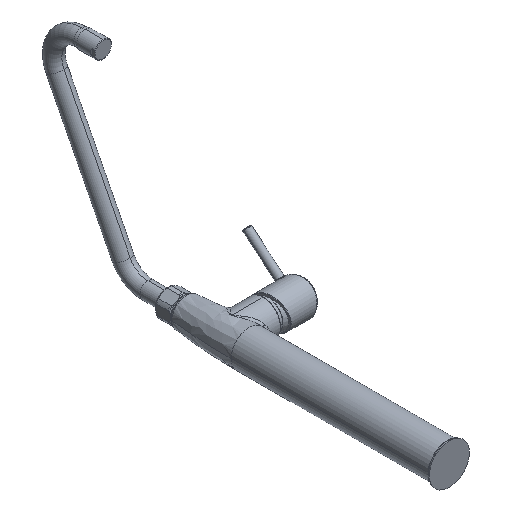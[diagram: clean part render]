
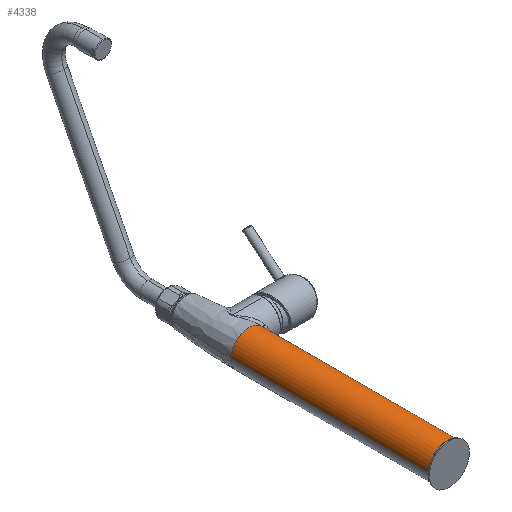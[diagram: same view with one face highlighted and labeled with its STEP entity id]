
A CAD part, isometric view. The second image highlights one B-rep face of the part: STEP entity #4338.
In plain terms, the highlighted cylindrical face has radius 28.9 mm (diameter 57.8 mm), a partial arc.
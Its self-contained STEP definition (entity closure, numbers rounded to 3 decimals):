
#1353=CARTESIAN_POINT('',(0.,-299.5,0.));
#1354=DIRECTION('',(0.,-1.,0.));
#1355=DIRECTION('',(1.,0.,0.));
#1356=AXIS2_PLACEMENT_3D('',#1353,#1354,#1355);
#1358=DIRECTION('',(0.,1.,0.));
#1359=VECTOR('',#1358,319.5);
#1360=CARTESIAN_POINT('',(-28.9,-299.5,0.));
#1361=LINE('',#1360,#1359);
#1362=CARTESIAN_POINT('',(0.,20.,0.));
#1363=DIRECTION('',(0.,1.,0.));
#1364=DIRECTION('',(-1.,0.,0.));
#1365=AXIS2_PLACEMENT_3D('',#1362,#1363,#1364);
#1367=DIRECTION('',(0.,-1.,0.));
#1368=VECTOR('',#1367,314.9);
#1369=CARTESIAN_POINT('',(28.9,15.4,0.));
#1370=LINE('',#1369,#1368);
#1371=CARTESIAN_POINT('',(25.452,20.,13.69));
#1372=CARTESIAN_POINT('',(25.772,19.572,13.095));
#1373=CARTESIAN_POINT('',(26.358,18.787,11.905));
#1374=CARTESIAN_POINT('',(27.083,17.819,10.143));
#1375=CARTESIAN_POINT('',(27.671,17.036,8.404));
#1376=CARTESIAN_POINT('',(28.134,16.419,6.687));
#1377=CARTESIAN_POINT('',(28.485,15.952,4.983));
#1378=CARTESIAN_POINT('',(28.728,15.629,3.297));
#1379=CARTESIAN_POINT('',(28.87,15.441,1.635));
#1380=CARTESIAN_POINT('',(28.9,15.4,0.542));
#1381=CARTESIAN_POINT('',(28.9,15.4,0.));
#1421=CARTESIAN_POINT('',(25.452,20.,13.69));
#2181=VERTEX_POINT('',#1421);
#2184=VERTEX_POINT('',#1381);
#2192=CARTESIAN_POINT('',(-28.9,20.,0.));
#2193=VERTEX_POINT('',#2192);
#2391=CARTESIAN_POINT('',(-28.9,-299.5,0.));
#2392=CARTESIAN_POINT('',(28.9,-299.5,0.));
#2393=VERTEX_POINT('',#2391);
#2394=VERTEX_POINT('',#2392);
#4325=CARTESIAN_POINT('',(0.,146.475,0.));
#4326=DIRECTION('',(0.,-1.,0.));
#4327=DIRECTION('',(-1.,0.,0.));
#4328=AXIS2_PLACEMENT_3D('',#4325,#4326,#4327);
#4329=CYLINDRICAL_SURFACE('',#4328,28.9);
#4330=ORIENTED_EDGE('',*,*,#4212,.T.);
#4331=ORIENTED_EDGE('',*,*,#4188,.T.);
#4332=ORIENTED_EDGE('',*,*,#3818,.T.);
#4334=ORIENTED_EDGE('',*,*,#4333,.T.);
#4335=ORIENTED_EDGE('',*,*,#4184,.T.);
#4336=EDGE_LOOP('',(#4330,#4331,#4332,#4334,#4335));
#4337=FACE_OUTER_BOUND('',#4336,.F.);
#1357=CIRCLE('',#1356,28.9);
#1366=CIRCLE('',#1365,28.9);
#1382=B_SPLINE_CURVE_WITH_KNOTS('',3,(#1371,#1372,#1373,#1374,#1375,#1376,#1377,
#1378,#1379,#1380,#1381),.UNSPECIFIED.,.F.,.F.,(4,1,1,1,1,1,1,1,4),(0.,
0.125,0.25,0.375,0.5,0.625,0.75,0.875,1.),.UNSPECIFIED.);
#3818=EDGE_CURVE('',#2193,#2181,#1366,.T.);
#4184=EDGE_CURVE('',#2184,#2394,#1370,.T.);
#4188=EDGE_CURVE('',#2393,#2193,#1361,.T.);
#4212=EDGE_CURVE('',#2394,#2393,#1357,.T.);
#4333=EDGE_CURVE('',#2181,#2184,#1382,.T.);
#4338=ADVANCED_FACE('',(#4337),#4329,.T.);
